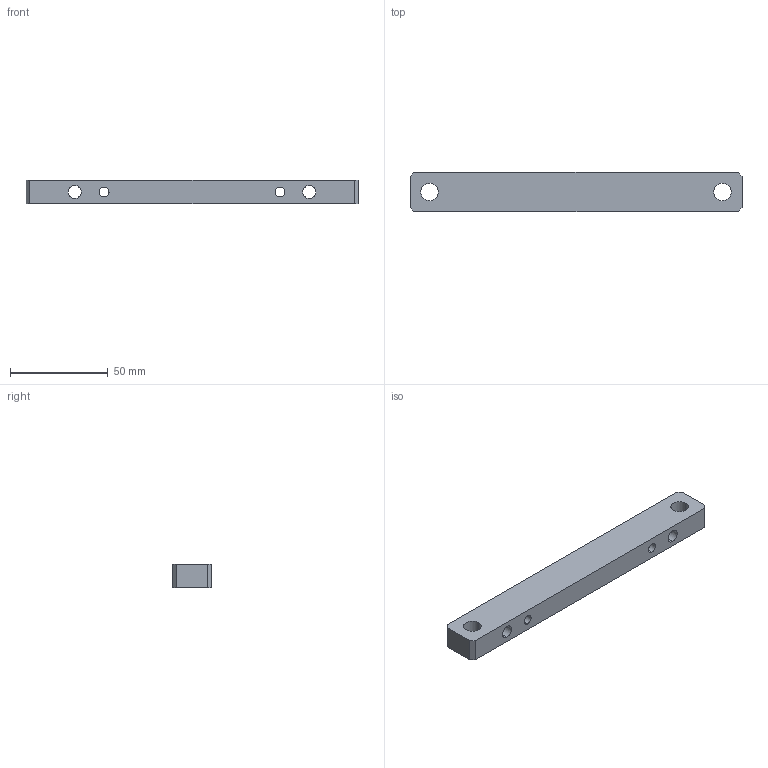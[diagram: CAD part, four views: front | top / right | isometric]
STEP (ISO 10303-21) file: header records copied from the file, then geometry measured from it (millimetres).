
FILE_DESCRIPTION (( 'STEP AP203' ), '1' );
FILE_NAME ('YWSD-2026-03-01-01=002 覃淕輸.STEP', '2026-07-24T07:43:58', ( 'Windows 蚚誧' ), ( '' ), 'SwSTEP 2.0', 'SolidWorks 2024', '' );
FILE_SCHEMA (( 'CONFIG_CONTROL_DESIGN' ));
Length unit declared in the file: millimetre
Products named in the file (1): YWSD-2026-03-01-01=002 调整块
Bounding box: 170 x 20 x 12 mm (x, y, z)
Volume: 37023.3 mm3; surface area: 12954.2 mm2
Topology: 1 solids, 1 shells, 22 faces, 60 edges, 40 vertices
Faces by surface type: cylinder 12, plane 10
Entity records: 809 total; most frequent: DIRECTION 130, CARTESIAN_POINT 123, ORIENTED_EDGE 120, EDGE_CURVE 60, AXIS2_PLACEMENT_3D 47, VERTEX_POINT 40, VECTOR 36, LINE 36
